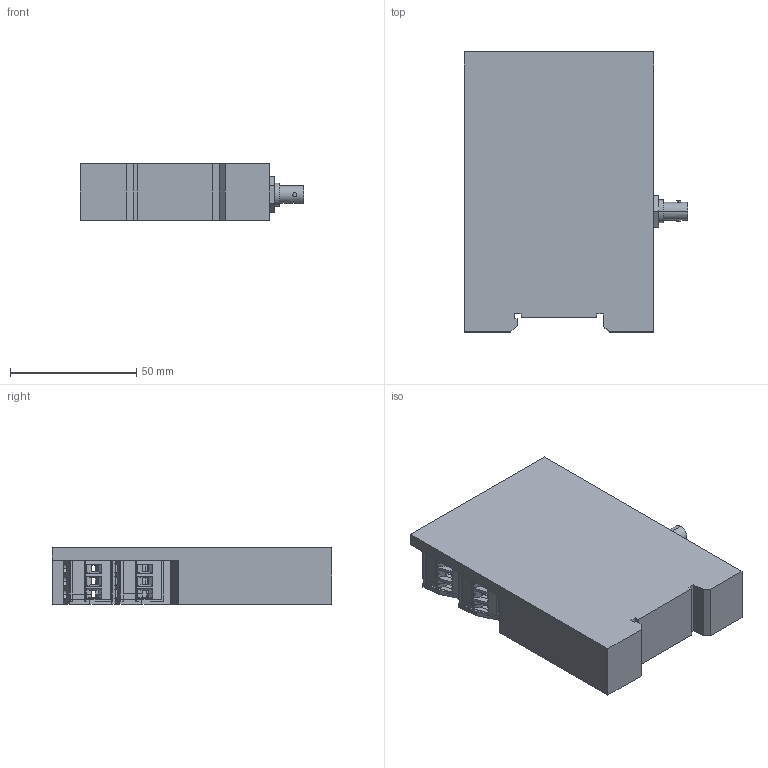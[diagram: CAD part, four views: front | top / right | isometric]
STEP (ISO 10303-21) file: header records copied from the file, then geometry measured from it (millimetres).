
FILE_DESCRIPTION (( 'STEP AP214' ), '1' );
FILE_NAME ('6.LWLS_LWL-Sender.STEP', '2019-05-13T13:35:03', ( '' ), ( '' ), 'SwSTEP 2.0', 'SolidWorks 2017', '' );
FILE_SCHEMA (( 'AUTOMOTIVE_DESIGN' ));
Length unit declared in the file: millimetre
Products named in the file (1): 6.LWLS_LWL-Sender
Bounding box: 88.5 x 110.8 x 22.5 mm (x, y, z)
Surface area: 29915.9 mm2 (no closed solid volume)
Topology: 0 solids, 44 shells, 390 faces, 1431 edges, 1068 vertices
Faces by surface type: plane 322, cylinder 52, bspline 16
Entity records: 20685 total; most frequent: CARTESIAN_POINT 5040, ORIENTED_EDGE 2139, DIRECTION 2060, EDGE_CURVE 1431, VECTOR 1096, LINE 1096, VERTEX_POINT 1068, AXIS2_PLACEMENT_3D 482
